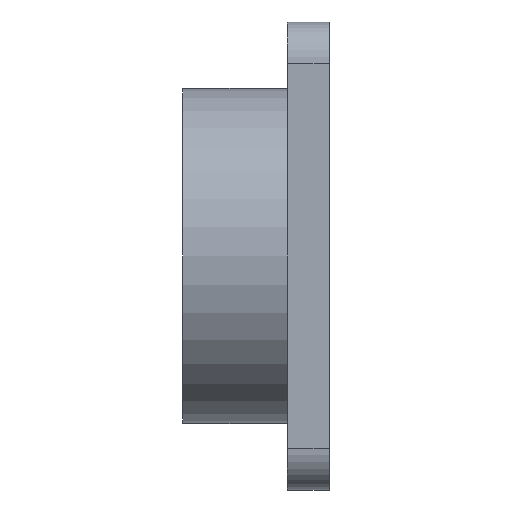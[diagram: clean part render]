
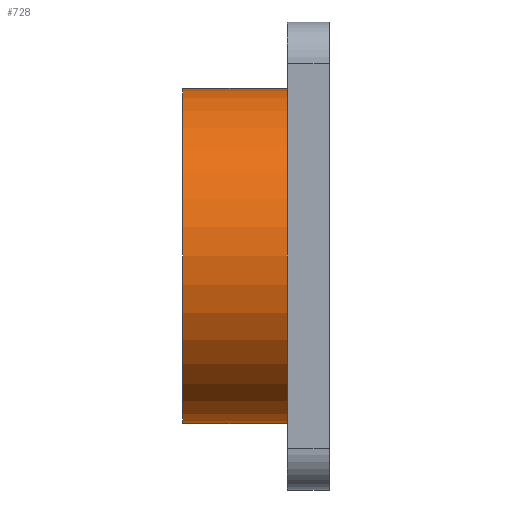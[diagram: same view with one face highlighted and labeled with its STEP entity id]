
A CAD part, left-side view. The second image highlights one B-rep face of the part: STEP entity #728.
In plain terms, the highlighted cylindrical face has radius 12 mm (diameter 24 mm), a partial arc.
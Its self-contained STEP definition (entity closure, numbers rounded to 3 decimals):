
#40 = DIRECTION ( 'NONE',  ( 0., -1., 0. ) ) ;
#46 = DIRECTION ( 'NONE',  ( 0., 1., 0. ) ) ;
#53 = DIRECTION ( 'NONE',  ( 0., -1., 0. ) ) ;
#86 = CARTESIAN_POINT ( 'NONE',  ( -4.25, 3., 12. ) ) ;
#137 = AXIS2_PLACEMENT_3D ( 'NONE', #879, #46, #145 ) ;
#138 = DIRECTION ( 'NONE',  ( 0., 0., -1. ) ) ;
#145 = DIRECTION ( 'NONE',  ( 0., 0., 1. ) ) ;
#194 = CARTESIAN_POINT ( 'NONE',  ( -4.25, 10.5, 12. ) ) ;
#232 = CIRCLE ( 'NONE', #137, 12. ) ;
#276 = ORIENTED_EDGE ( 'NONE', *, *, #958, .T. ) ;
#406 = VECTOR ( 'NONE', #1136, 1000. ) ;
#443 = LINE ( 'NONE', #485, #645 ) ;
#485 = CARTESIAN_POINT ( 'NONE',  ( -4.25, 10.5, 12. ) ) ;
#508 = DIRECTION ( 'NONE',  ( 0., 0., 1. ) ) ;
#527 = CARTESIAN_POINT ( 'NONE',  ( -4.25, 10.5, -12. ) ) ;
#556 = EDGE_CURVE ( 'NONE', #1198, #766, #443, .T. ) ;
#572 = EDGE_LOOP ( 'NONE', ( #845, #635, #276, #968 ) ) ;
#603 = EDGE_CURVE ( 'NONE', #766, #1054, #940, .T. ) ;
#635 = ORIENTED_EDGE ( 'NONE', *, *, #1009, .F. ) ;
#645 = VECTOR ( 'NONE', #813, 1000. ) ;
#661 = AXIS2_PLACEMENT_3D ( 'NONE', #868, #40, #138 ) ;
#681 = AXIS2_PLACEMENT_3D ( 'NONE', #692, #53, #508 ) ;
#692 = CARTESIAN_POINT ( 'NONE',  ( -4.25, 3., 0. ) ) ;
#728 = ADVANCED_FACE ( 'NONE', ( #872 ), #971, .T. ) ;
#766 = VERTEX_POINT ( 'NONE', #86 ) ;
#813 = DIRECTION ( 'NONE',  ( 0., -1., 0. ) ) ;
#845 = ORIENTED_EDGE ( 'NONE', *, *, #556, .F. ) ;
#868 = CARTESIAN_POINT ( 'NONE',  ( -4.25, 10.5, 0. ) ) ;
#872 = FACE_OUTER_BOUND ( 'NONE', #572, .T. ) ;
#879 = CARTESIAN_POINT ( 'NONE',  ( -4.25, 10.5, 0. ) ) ;
#898 = CARTESIAN_POINT ( 'NONE',  ( -4.25, 10.5, -12. ) ) ;
#940 = CIRCLE ( 'NONE', #681, 12. ) ;
#951 = LINE ( 'NONE', #527, #406 ) ;
#958 = EDGE_CURVE ( 'NONE', #1032, #1054, #951, .T. ) ;
#968 = ORIENTED_EDGE ( 'NONE', *, *, #603, .F. ) ;
#971 = CYLINDRICAL_SURFACE ( 'NONE', #661, 12. ) ;
#1009 = EDGE_CURVE ( 'NONE', #1032, #1198, #232, .T. ) ;
#1032 = VERTEX_POINT ( 'NONE', #898 ) ;
#1054 = VERTEX_POINT ( 'NONE', #1107 ) ;
#1107 = CARTESIAN_POINT ( 'NONE',  ( -4.25, 3., -12. ) ) ;
#1136 = DIRECTION ( 'NONE',  ( 0., -1., 0. ) ) ;
#1198 = VERTEX_POINT ( 'NONE', #194 ) ;
